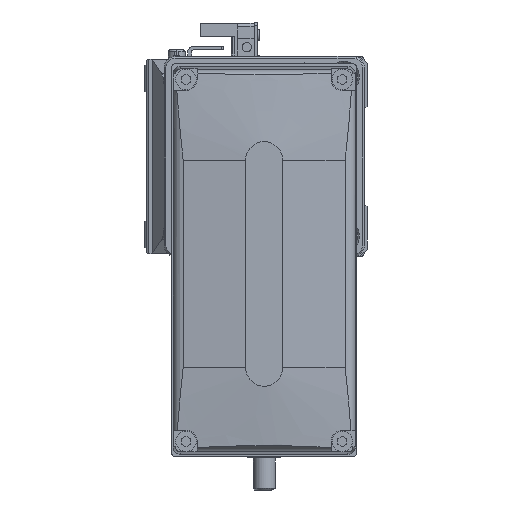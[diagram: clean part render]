
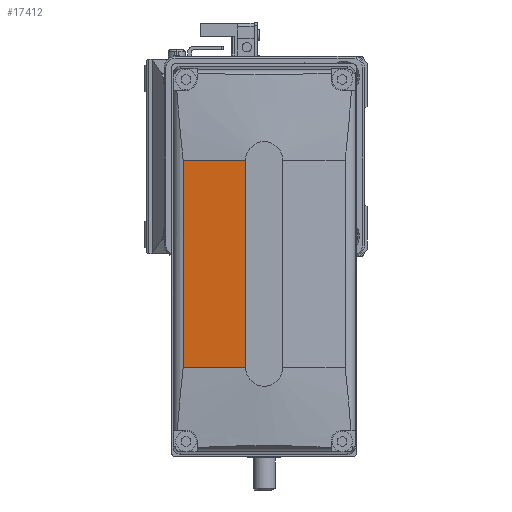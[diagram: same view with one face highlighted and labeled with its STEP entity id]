
A CAD part, left-side view. The second image highlights one B-rep face of the part: STEP entity #17412.
In plain terms, the highlighted planar face has unit normal (-0.996, 0.087, 0) as drawn and (-0.996, 0, -0.087) by its records, which use the part's own axes.
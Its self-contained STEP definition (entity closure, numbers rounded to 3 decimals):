
#1207 = CARTESIAN_POINT ( 'NONE',  ( 43606.406, 28., -499000. ) ) ;
#1236 = VERTEX_POINT ( 'NONE', #28285 ) ;
#1483 = LINE ( 'NONE', #11405, #9006 ) ;
#3719 = VECTOR ( 'NONE', #23897, 1000. ) ;
#4451 = CARTESIAN_POINT ( 'NONE',  ( 43606.406, -28., -499000. ) ) ;
#5182 = AXIS2_PLACEMENT_3D ( 'NONE', #6205, #12085, #17794 ) ;
#5841 = VERTEX_POINT ( 'NONE', #31343 ) ;
#5964 = LINE ( 'NONE', #21132, #30483 ) ;
#6117 = ORIENTED_EDGE ( 'NONE', *, *, #20432, .F. ) ;
#6205 = CARTESIAN_POINT ( 'NONE',  ( -50., 128., -5. ) ) ;
#9006 = VECTOR ( 'NONE', #25416, 1000. ) ;
#9364 = LINE ( 'NONE', #4451, #35155 ) ;
#11076 = EDGE_LOOP ( 'NONE', ( #13706, #27435, #6117, #25739 ) ) ;
#11405 = CARTESIAN_POINT ( 'NONE',  ( -50., 128., -5. ) ) ;
#12085 = DIRECTION ( 'NONE',  ( -0.996, 0., -0.087 ) ) ;
#13706 = ORIENTED_EDGE ( 'NONE', *, *, #35154, .F. ) ;
#14067 = EDGE_CURVE ( 'NONE', #5841, #1236, #5964, .T. ) ;
#15754 = VERTEX_POINT ( 'NONE', #19615 ) ;
#17412 = ADVANCED_FACE ( 'NONE', ( #24718 ), #20750, .T. ) ;
#17794 = DIRECTION ( 'NONE',  ( -0.087, 0., 0.996 ) ) ;
#17804 = VERTEX_POINT ( 'NONE', #20657 ) ;
#19615 = CARTESIAN_POINT ( 'NONE',  ( -50., -28., -5. ) ) ;
#20432 = EDGE_CURVE ( 'NONE', #15754, #5841, #9364, .T. ) ;
#20657 = CARTESIAN_POINT ( 'NONE',  ( -50., 28., -5. ) ) ;
#20750 = PLANE ( 'NONE',  #5182 ) ;
#21132 = CARTESIAN_POINT ( 'NONE',  ( -48.525, 128., -21.861 ) ) ;
#21704 = DIRECTION ( 'NONE',  ( 0.087, 0., -0.996 ) ) ;
#23897 = DIRECTION ( 'NONE',  ( -0.087, 0., 0.996 ) ) ;
#24718 = FACE_OUTER_BOUND ( 'NONE', #11076, .T. ) ;
#25416 = DIRECTION ( 'NONE',  ( 0., 1., 0. ) ) ;
#25739 = ORIENTED_EDGE ( 'NONE', *, *, #35933, .T. ) ;
#27435 = ORIENTED_EDGE ( 'NONE', *, *, #14067, .F. ) ;
#28285 = CARTESIAN_POINT ( 'NONE',  ( -48.525, 28., -21.861 ) ) ;
#30483 = VECTOR ( 'NONE', #33076, 1000. ) ;
#31343 = CARTESIAN_POINT ( 'NONE',  ( -48.525, -28., -21.861 ) ) ;
#33076 = DIRECTION ( 'NONE',  ( 0., 1., 0. ) ) ;
#33099 = LINE ( 'NONE', #1207, #3719 ) ;
#35154 = EDGE_CURVE ( 'NONE', #1236, #17804, #33099, .T. ) ;
#35155 = VECTOR ( 'NONE', #21704, 1000. ) ;
#35933 = EDGE_CURVE ( 'NONE', #15754, #17804, #1483, .T. ) ;
